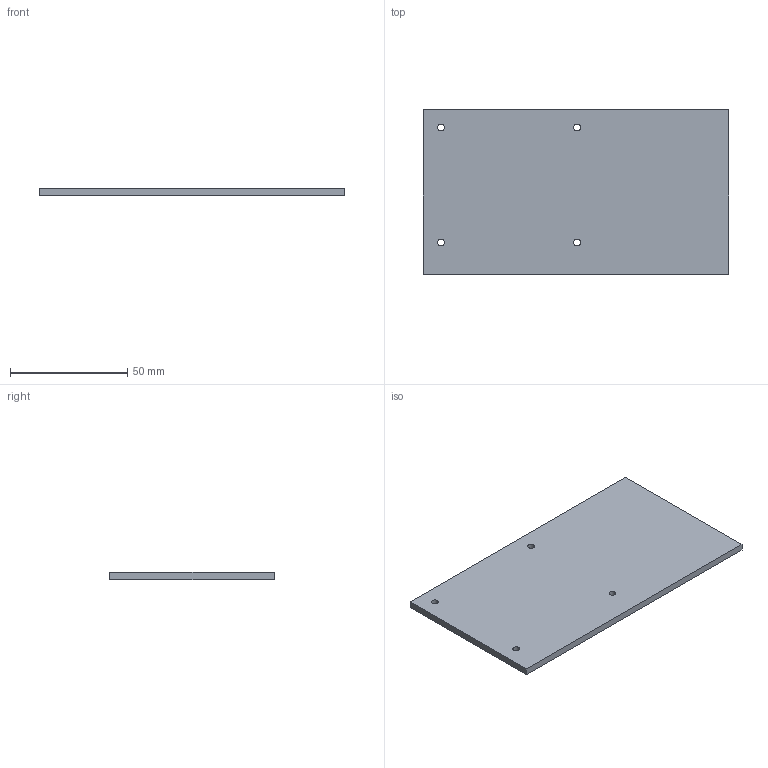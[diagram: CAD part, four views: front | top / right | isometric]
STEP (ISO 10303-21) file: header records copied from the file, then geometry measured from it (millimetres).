
FILE_DESCRIPTION(('FreeCAD Model'),'2;1');
FILE_NAME('Open CASCADE Shape Model','2026-09-11T23:31:31',('FreeCAD'),( 'FreeCAD'),'Open CASCADE STEP processor 7.8','FreeCAD','Unknown');
FILE_SCHEMA(('AUTOMOTIVE_DESIGN { 1 0 10303 214 1 1 1 1 }'));
Products named in the file (1): Open CASCADE STEP translator 7.8 17
Bounding box: 130 x 70 x 3 mm (x, y, z)
Volume: 27047.1 mm3; surface area: 20173.6 mm2
Topology: 1 solids, 1 shells, 2405 faces, 5772 edges, 3848 vertices
Faces by surface type: plane 2401, cylinder 4
Full cylindrical faces by diameter (mm): 2.9 x4
Entity records: 68340 total; most frequent: CARTESIAN_POINT 12026, ORIENTED_EDGE 11544, DIRECTION 10592, EDGE_CURVE 5772, LINE 5764, VECTOR 5764, VERTEX_POINT 3848, FACE_BOUND 2892
